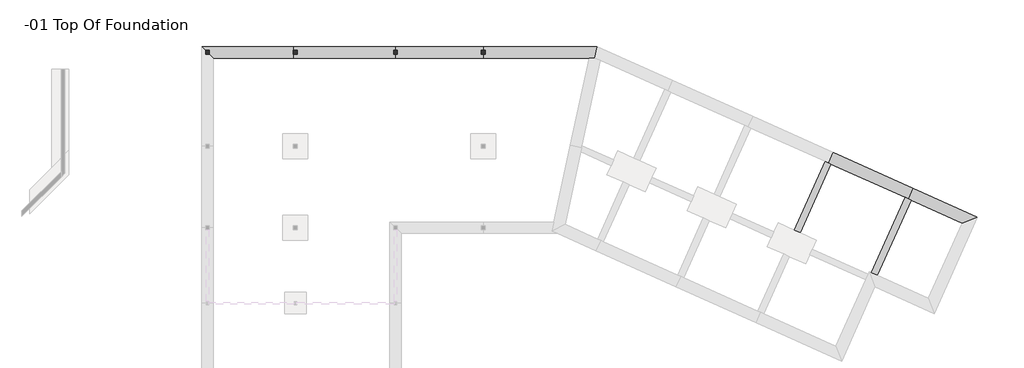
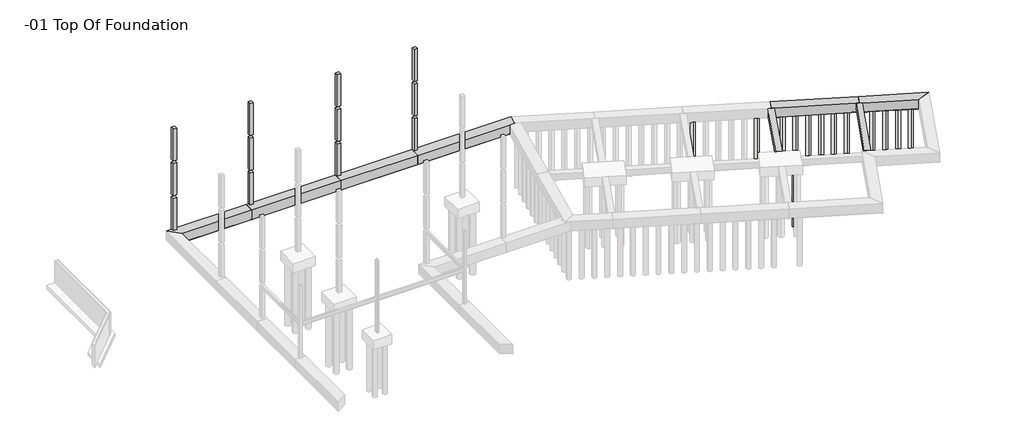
# One storey, part 6 of 6: 13 slabs, 8 beams, 4 columns.
"""IFC4 building model written with IfcOpenShell, lengths in millimetres."""

from ifc_helpers import new_model, si_unit, point, frame, frame_2d, origin, origin_with_axes, place, context, project, spatial, polyline, circle_curve, trimmed, segment, composite_curve, outline, extrude, faceted_brep, element, save
from ifc_brep_helpers import plane_surface, revolved_surface, advanced_brep

model = new_model("IFC4")

# Units and contexts
model_context = context("Model", 3, world=origin())
ifc_project = project(units=[si_unit("LENGTHUNIT", "METRE", prefix="MILLI")], contexts=[model_context])

# Site, building, storey
site = spatial("IfcSite", under=ifc_project)
building = spatial("IfcBuilding", under=site)
storey = spatial("IfcBuildingStorey", under=building, Name="-01 Top Of Foundation", Elevation=-304.8)

# Beams
placement = place(None, origin())
element("IfcBeam", 1, ObjectType="Ring Beam : 12 x 24", at=placement, inside=storey, context=model_context, shape_type="Brep", body=[
    faceted_brep([(49731.5326766, -8915.0282927, -304.8), (49499.8351156, -8810.9502439, -304.8), (49268.1375546, -8706.8721951, -304.8), (46806.691701, -14186.5195122, -304.8), (47270.0868229, -14394.6756098, -304.8), (49268.1375546, -8706.8721951, -889.0), (46806.691701, -14186.5195122, -889.0), (49291.3073107, -8717.28, -914.4), (46829.8614571, -14196.9273171, -914.4), (49708.3629205, -8904.6204878, -914.4), (47246.9170668, -14384.2678049, -914.4), (49731.5326766, -8915.0282927, -889.0), (47270.0868229, -14394.6756098, -889.0)], [[[0, 1, 2, 3, 4]], [[2, 5, 6, 3]], [[5, 7, 8, 6]], [[7, 9, 10, 8]], [[9, 11, 12, 10]], [[11, 0, 4, 12]], [[11, 9, 7, 5, 2, 1, 0]], [[4, 3, 6, 8, 10, 12]]]),
])
element("IfcBeam", 2, ObjectType="Ring Beam : 12 x 24", at=placement, inside=storey, context=model_context, shape_type="Brep", body=[
    faceted_brep([(52962.1648717, -17591.9780488, -304.8), (53425.5599937, -17800.1341463, -304.8), (56126.3853595, -11787.582439, -304.8), (55894.6877985, -11683.5043902, -304.8), (55662.9902376, -11579.4263415, -304.8), (53425.5599937, -17800.1341463, -889.0), (56126.3853595, -11787.582439, -889.0), (53402.3902376, -17789.7263415, -914.4), (56103.2156034, -11777.1746341, -914.4), (52985.3346278, -17602.3858537, -914.4), (55686.1599937, -11589.8341463, -914.4), (55662.9902376, -11579.4263415, -889.0), (52962.1648717, -17591.9780488, -889.0)], [[[0, 1, 2, 3, 4]], [[1, 5, 6, 2]], [[5, 7, 8, 6]], [[7, 9, 10, 8]], [[11, 10, 9, 12]], [[4, 11, 12, 0]], [[1, 0, 12, 9, 7, 5]], [[2, 6, 8, 10, 11, 4, 3]]]),
])
element("IfcBeam", 3, ObjectType="Ring Beam : 16 x 32", at=placement, inside=storey, context=model_context, shape_type="AdvancedBrep", body=[
    advanced_brep(
    [(56269.3687742, -10849.3931707, -304.8), (61413.0546278, -13159.9258537, -304.8), (61413.0546278, -13159.9258537, -1193.8), (56269.3687742, -10849.3931707, -1193.8), (55894.6877985, -11683.5043902, -304.8), (56126.3853595, -11787.582439, -304.8), (60204.2624327, -13619.3560976, -304.8), (61379.4770668, -13172.6878049, -1219.2), (56258.9609693, -10872.5629268, -1219.2), (60998.6018987, -13317.4484776, -1219.2), (60891.9209693, -13204.2829268, -1219.2), (60618.7151618, -13461.8334736, -1219.2), (60237.8399937, -13606.5941463, -1219.2), (55905.0956034, -11660.3346341, -1219.2), (56004.6401286, -11438.7295602, -1219.2), (56067.1539984, -11482.5266404, -1219.2), (56233.6788764, -11111.8105429, -1219.2), (56159.4164441, -11094.1680008, -1219.2), (56998.802417, -11901.0211172, -1219.2), (57165.327295, -11530.3050197, -1219.2), (57930.4508355, -12319.515594, -1219.2), (58096.9757136, -11948.7994965, -1219.2), (58862.0992541, -12738.0100708, -1219.2), (59028.6241321, -12367.2939732, -1219.2), (59793.7476727, -13156.5045476, -1219.2), (59960.2725507, -12785.78845, -1219.2), (60204.2624327, -13619.3560976, -1193.8), (55894.6877985, -11683.5043902, -1193.8), (60618.7151618, -13461.8334736, -1066.8), (60998.6018987, -13317.4484776, -1066.8), (56159.4164441, -11094.1680008, -1066.8), (56004.6401286, -11438.7295602, -1066.8), (56233.6788764, -11111.8105429, -1066.8), (56067.1539984, -11482.5266404, -1066.8), (57165.327295, -11530.3050197, -1066.8), (56998.802417, -11901.0211172, -1066.8), (58096.9757136, -11948.7994965, -1066.8), (57930.4508355, -12319.515594, -1066.8), (59028.6241321, -12367.2939732, -1066.8), (58862.0992541, -12738.0100708, -1066.8), (59960.2725507, -12785.78845, -1066.8), (59793.7476727, -13156.5045476, -1066.8), (60891.9209693, -13204.2829268, -1066.8)],
    [
        (0, 1),
        (1, 2),
        (2, 3),
        (3, 0),
        (0, 4),
        (4, 5),
        (5, 6),
        (6, 1),
        (2, 7),
        (7, 8),
        (8, 3),
        (7, 9),
        (9, 10, circle_curve(frame((60808.6585303, -13389.6409756, -1219.2), z_axis=(0.0, 0.0, 1.0), x_axis=(0.4097560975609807, 0.9121951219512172, 0.0)), 203.2)),
        (10, 11, circle_curve(frame((60808.6585303, -13389.6409756, -1219.2), z_axis=(0.0, 0.0, 1.0), x_axis=(0.4097560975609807, 0.9121951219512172, 0.0)), 203.2)),
        (11, 12),
        (12, 13),
        (13, 14),
        (14, 15, circle_curve(frame((56150.4164374, -11297.1685917, -1219.2), z_axis=(0.0, 0.0, 1.0), x_axis=(0.4097560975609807, 0.9121951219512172, 0.0)), 203.2)),
        (15, 16, circle_curve(frame((56150.4164374, -11297.1685917, -1219.2), z_axis=(0.0, 0.0, 1.0), x_axis=(0.4097560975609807, 0.9121951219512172, 0.0)), 203.2)),
        (16, 17, circle_curve(frame((56150.4164374, -11297.1685917, -1219.2), z_axis=(0.0, 0.0, 1.0), x_axis=(0.4097560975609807, 0.9121951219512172, 0.0)), 203.2)),
        (17, 8),
        (18, 19, circle_curve(frame((57082.064856, -11715.6630685, -1219.2), z_axis=(0.0, 0.0, 1.0), x_axis=(0.4097560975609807, 0.9121951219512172, 0.0)), 203.2)),
        (19, 18, circle_curve(frame((57082.064856, -11715.6630685, -1219.2), z_axis=(0.0, 0.0, 1.0), x_axis=(0.4097560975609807, 0.9121951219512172, 0.0)), 203.2)),
        (20, 21, circle_curve(frame((58013.7132746, -12134.1575452, -1219.2), z_axis=(0.0, 0.0, 1.0), x_axis=(0.4097560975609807, 0.9121951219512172, 0.0)), 203.2)),
        (21, 20, circle_curve(frame((58013.7132746, -12134.1575452, -1219.2), z_axis=(0.0, 0.0, 1.0), x_axis=(0.4097560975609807, 0.9121951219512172, 0.0)), 203.2)),
        (22, 23, circle_curve(frame((58945.3616931, -12552.652022, -1219.2), z_axis=(0.0, 0.0, 1.0), x_axis=(0.4097560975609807, 0.9121951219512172, 0.0)), 203.2)),
        (23, 22, circle_curve(frame((58945.3616931, -12552.652022, -1219.2), z_axis=(0.0, 0.0, 1.0), x_axis=(0.4097560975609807, 0.9121951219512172, 0.0)), 203.2)),
        (24, 25, circle_curve(frame((59877.0101117, -12971.1464988, -1219.2), z_axis=(0.0, 0.0, 1.0), x_axis=(0.4097560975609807, 0.9121951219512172, 0.0)), 203.2)),
        (25, 24, circle_curve(frame((59877.0101117, -12971.1464988, -1219.2), z_axis=(0.0, 0.0, 1.0), x_axis=(0.4097560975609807, 0.9121951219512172, 0.0)), 203.2)),
        (12, 26),
        (26, 27),
        (27, 13),
        (4, 27),
        (26, 6),
        (11, 28),
        (28, 29),
        (29, 9),
        (17, 30),
        (30, 31),
        (31, 14),
        (32, 33, circle_curve(frame((56150.4164374, -11297.1685917, -1066.8), z_axis=(0.0, 0.0, -1.0), x_axis=(0.4097560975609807, 0.9121951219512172, 0.0)), 203.2)),
        (33, 31, circle_curve(frame((56150.4164374, -11297.1685917, -1066.8), z_axis=(0.0, 0.0, -1.0), x_axis=(0.4097560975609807, 0.9121951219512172, 0.0)), 203.2)),
        (30, 32, circle_curve(frame((56150.4164374, -11297.1685917, -1066.8), z_axis=(0.0, 0.0, -1.0), x_axis=(0.4097560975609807, 0.9121951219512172, 0.0)), 203.2)),
        (32, 16),
        (15, 33),
        (34, 35, circle_curve(frame((57082.064856, -11715.6630685, -1066.8), z_axis=(0.0, 0.0, -1.0), x_axis=(0.4097560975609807, 0.9121951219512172, 0.0)), 203.2)),
        (35, 34, circle_curve(frame((57082.064856, -11715.6630685, -1066.8), z_axis=(0.0, 0.0, -1.0), x_axis=(0.4097560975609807, 0.9121951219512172, 0.0)), 203.2)),
        (34, 19),
        (18, 35),
        (36, 37, circle_curve(frame((58013.7132746, -12134.1575452, -1066.8), z_axis=(0.0, 0.0, -1.0), x_axis=(0.4097560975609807, 0.9121951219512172, 0.0)), 203.2)),
        (37, 36, circle_curve(frame((58013.7132746, -12134.1575452, -1066.8), z_axis=(0.0, 0.0, -1.0), x_axis=(0.4097560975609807, 0.9121951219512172, 0.0)), 203.2)),
        (36, 21),
        (20, 37),
        (38, 39, circle_curve(frame((58945.3616931, -12552.652022, -1066.8), z_axis=(0.0, 0.0, -1.0), x_axis=(0.4097560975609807, 0.9121951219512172, 0.0)), 203.2)),
        (39, 38, circle_curve(frame((58945.3616931, -12552.652022, -1066.8), z_axis=(0.0, 0.0, -1.0), x_axis=(0.4097560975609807, 0.9121951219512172, 0.0)), 203.2)),
        (38, 23),
        (22, 39),
        (40, 41, circle_curve(frame((59877.0101117, -12971.1464988, -1066.8), z_axis=(0.0, 0.0, -1.0), x_axis=(0.4097560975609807, 0.9121951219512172, 0.0)), 203.2)),
        (41, 40, circle_curve(frame((59877.0101117, -12971.1464988, -1066.8), z_axis=(0.0, 0.0, -1.0), x_axis=(0.4097560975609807, 0.9121951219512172, 0.0)), 203.2)),
        (40, 25),
        (24, 41),
        (28, 42, circle_curve(frame((60808.6585303, -13389.6409756, -1066.8), z_axis=(0.0, 0.0, -1.0), x_axis=(0.4097560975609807, 0.9121951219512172, 0.0)), 203.2)),
        (42, 29, circle_curve(frame((60808.6585303, -13389.6409756, -1066.8), z_axis=(0.0, 0.0, -1.0), x_axis=(0.4097560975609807, 0.9121951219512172, 0.0)), 203.2)),
        (42, 10),
    ],
    [
        plane_surface(frame((56512.6512132, -10958.675122, -304.8), z_axis=(0.40975609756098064, 0.9121951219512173, 0.0), x_axis=(0.9121951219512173, -0.40975609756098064, 0.0))),
        plane_surface(frame((56137.9702376, -11792.7863415, -304.8), z_axis=(0.0, 0.0, 1.0), x_axis=(0.9121951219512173, -0.40975609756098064, 0.0))),
        plane_surface(frame((56512.6512132, -10958.675122, -1193.8), z_axis=(0.2897413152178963, 0.645019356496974, -0.7071067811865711), x_axis=(0.9121951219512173, -0.40975609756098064, 0.0))),
        plane_surface(frame((56502.2434083, -10981.844878, -1219.2), z_axis=(0.0, 0.0, -1.0), x_axis=(0.9121951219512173, -0.40975609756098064, 0.0))),
        plane_surface(frame((56148.3780425, -11769.6165854, -1219.2), z_axis=(-0.2897413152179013, -0.6450193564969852, -0.7071067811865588), x_axis=(0.9121951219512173, -0.40975609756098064, 0.0))),
        plane_surface(frame((56137.9702376, -11792.7863415, -1193.8), z_axis=(-0.40975609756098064, -0.9121951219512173, 0.0), x_axis=(0.9121951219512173, -0.40975609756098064, 0.0))),
        plane_surface(frame((60204.2624327, -13619.3560976, -304.8), z_axis=(0.35527804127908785, -0.934760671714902, 0.0), x_axis=(0.934760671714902, 0.35527804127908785, 0.0))),
        plane_surface(frame((56082.0282864, -11266.4487805, -304.8), z_axis=(-0.9121951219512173, 0.40975609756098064, 0.0), x_axis=(0.40975609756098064, 0.9121951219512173, 0.0))),
        plane_surface(frame((56233.6788764, -11111.8105429, -1066.8), z_axis=(0.0, 0.0, -1.0), x_axis=(-0.9121951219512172, 0.4097560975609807, 0.0))),
        revolved_surface(polyline([(56233.6788764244, -11111.810542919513, -1066.8000000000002), (56233.6788764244, -11111.810542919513, -1219.1999999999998)]), (56150.4164374, -11297.1685917, -6096.0), (0.0, 0.0, 1.0)),
        plane_surface(frame((57165.327295, -11530.3050197, -1066.8), z_axis=(0.0, 0.0, -1.0), x_axis=(-0.9121951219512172, 0.4097560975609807, 0.0))),
        revolved_surface(polyline([(57165.32729502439, -11530.305019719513, -1066.8000000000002), (57165.32729502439, -11530.305019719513, -1219.1999999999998)]), (57082.064856, -11715.6630685, -6096.0), (0.0, 0.0, 1.0)),
        plane_surface(frame((58096.9757136, -11948.7994965, -1066.8), z_axis=(0.0, 0.0, -1.0), x_axis=(-0.9121951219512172, 0.4097560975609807, 0.0))),
        revolved_surface(polyline([(58096.97571362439, -11948.799496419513, -1066.8000000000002), (58096.97571362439, -11948.799496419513, -1219.1999999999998)]), (58013.7132746, -12134.1575452, -6096.0), (0.0, 0.0, 1.0)),
        plane_surface(frame((59028.6241321, -12367.2939732, -1066.8), z_axis=(0.0, 0.0, -1.0), x_axis=(-0.9121951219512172, 0.4097560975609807, 0.0))),
        revolved_surface(polyline([(59028.624132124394, -12367.293973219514, -1066.8000000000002), (59028.624132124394, -12367.293973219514, -1219.1999999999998)]), (58945.3616931, -12552.652022, -6096.0), (0.0, 0.0, 1.0)),
        plane_surface(frame((59960.2725507, -12785.78845, -1066.8), z_axis=(0.0, 0.0, -1.0), x_axis=(-0.9121951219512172, 0.4097560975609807, 0.0))),
        revolved_surface(polyline([(59960.272550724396, -12785.788450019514, -1066.8000000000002), (59960.272550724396, -12785.788450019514, -1219.1999999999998)]), (59877.0101117, -12971.1464988, -6096.0), (0.0, 0.0, 1.0)),
        plane_surface(frame((60891.9209693, -13204.2829268, -1066.8), z_axis=(0.0, 0.0, -1.0), x_axis=(-0.9121951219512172, 0.4097560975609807, 0.0))),
        revolved_surface(polyline([(60891.9209693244, -13204.282926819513, -1066.8000000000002), (60891.9209693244, -13204.282926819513, -1219.1999999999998)]), (60808.6585303, -13389.6409756, -6096.0), (0.0, 0.0, 1.0)),
    ],
    [
        (0, [[1, 2, 3, 4]]),
        (1, [[-1, 5, 6, 7, 8]]),
        (2, [[-3, 9, 10, 11]]),
        (3, [[-10, 12, 13, 14, 15, 16, 17, 18, 19, 20, 21], [22, 23], [24, 25], [26, 27], [28, 29]]),
        (4, [[-16, 30, 31, 32]]),
        (5, [[-7, -6, 33, -31, 34]]),
        (6, [[-34, -30, -15, 35, 36, 37, -12, -9, -2, -8]]),
        (7, [[-5, -4, -11, -21, 38, 39, 40, -17, -32, -33]]),
        (8, [[41, 42, -39, 43]]),
        (9, [[-41, 44, -19, 45]]),
        (9, [[-43, -38, -20, -44]]),
        (10, [[46, 47]]),
        (11, [[-46, 48, -22, 49]]),
        (11, [[-47, -49, -23, -48]]),
        (12, [[50, 51]]),
        (13, [[-50, 52, -24, 53]]),
        (13, [[-51, -53, -25, -52]]),
        (14, [[54, 55]]),
        (15, [[-54, 56, -26, 57]]),
        (15, [[-55, -57, -27, -56]]),
        (16, [[58, 59]]),
        (17, [[-58, 60, -28, 61]]),
        (17, [[-59, -61, -29, -60]]),
        (18, [[62, 63, -36]]),
        (19, [[-63, 64, -13, -37]]),
        (19, [[-62, -35, -14, -64]]),
        (9, [[-42, -45, -18, -40]]),
    ],
),
])
element("IfcBeam", 4, ObjectType="Ring Beam : 16 x 32", at=placement, inside=storey, context=model_context, shape_type="AdvancedBrep", body=[
    advanced_brep(
    [(49874.5160912, -7976.8390244, -304.8), (56269.3687742, -10849.3931707, -304.8), (56269.3687742, -10849.3931707, -1193.8), (49874.5160912, -7976.8390244, -1193.8), (49499.8351156, -8810.9502439, -304.8), (49731.5326766, -8915.0282927, -304.8), (55662.9902376, -11579.4263415, -304.8), (55894.6877985, -11683.5043902, -304.8), (56258.9609693, -10872.5629268, -1219.2), (49864.1082864, -8000.0087805, -1219.2), (56159.4164441, -11094.1680008, -1219.2), (56004.6401286, -11438.7295602, -1219.2), (55905.0956034, -11660.3346341, -1219.2), (49510.2429205, -8787.7804878, -1219.2), (49608.1385559, -8569.8461566, -1219.2), (49766.2126509, -8217.9431117, -1219.2), (50477.263487, -8971.5597797, -1219.2), (50643.788365, -8600.8436821, -1219.2), (51408.9119056, -9390.0542565, -1219.2), (51575.4367836, -9019.3381589, -1219.2), (52340.5603241, -9808.5487333, -1219.2), (52507.0852022, -9437.8326357, -1219.2), (53272.2087427, -10227.0432101, -1219.2), (53438.7336207, -9856.3271125, -1219.2), (54203.8571613, -10645.5376869, -1219.2), (54370.3820393, -10274.8215893, -1219.2), (55135.5055798, -11064.0321637, -1219.2), (55302.0304579, -10693.3160661, -1219.2), (55894.6877985, -11683.5043902, -1193.8), (49499.8351156, -8810.9502439, -1193.8), (56004.6401286, -11438.7295602, -1066.8), (56159.4164441, -11094.1680008, -1066.8), (49766.2126509, -8217.9431117, -1066.8), (49608.1385559, -8569.8461566, -1066.8), (50643.788365, -8600.8436821, -1066.8), (50477.263487, -8971.5597797, -1066.8), (51575.4367836, -9019.3381589, -1066.8), (51408.9119056, -9390.0542565, -1066.8), (52507.0852022, -9437.8326357, -1066.8), (52340.5603241, -9808.5487333, -1066.8), (53438.7336207, -9856.3271125, -1066.8), (53272.2087427, -10227.0432101, -1066.8), (54370.3820393, -10274.8215893, -1066.8), (54203.8571613, -10645.5376869, -1066.8), (55302.0304579, -10693.3160661, -1066.8), (55135.5055798, -11064.0321637, -1066.8)],
    [
        (0, 1),
        (1, 2),
        (2, 3),
        (3, 0),
        (0, 4),
        (4, 5),
        (5, 6),
        (6, 7),
        (7, 1),
        (2, 8),
        (8, 9),
        (9, 3),
        (8, 10),
        (10, 11, circle_curve(frame((56150.4164374, -11297.1685917, -1219.2), z_axis=(0.0, 0.0, 1.0), x_axis=(0.4097560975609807, 0.9121951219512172, 0.0)), 203.2)),
        (11, 12),
        (12, 13),
        (13, 14),
        (14, 15, circle_curve(frame((49628.8775074, -8367.7072541, -1219.2), z_axis=(0.0, 0.0, 1.0), x_axis=(0.4097560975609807, 0.9121951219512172, 0.0)), 203.2)),
        (15, 9),
        (16, 17, circle_curve(frame((50560.525926, -8786.2017309, -1219.2), z_axis=(0.0, 0.0, 1.0), x_axis=(0.4097560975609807, 0.9121951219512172, 0.0)), 203.2)),
        (17, 16, circle_curve(frame((50560.525926, -8786.2017309, -1219.2), z_axis=(0.0, 0.0, 1.0), x_axis=(0.4097560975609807, 0.9121951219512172, 0.0)), 203.2)),
        (18, 19, circle_curve(frame((51492.1743446, -9204.6962077, -1219.2), z_axis=(0.0, 0.0, 1.0), x_axis=(0.4097560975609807, 0.9121951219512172, 0.0)), 203.2)),
        (19, 18, circle_curve(frame((51492.1743446, -9204.6962077, -1219.2), z_axis=(0.0, 0.0, 1.0), x_axis=(0.4097560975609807, 0.9121951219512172, 0.0)), 203.2)),
        (20, 21, circle_curve(frame((52423.8227631, -9623.1906845, -1219.2), z_axis=(0.0, 0.0, 1.0), x_axis=(0.4097560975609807, 0.9121951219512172, 0.0)), 203.2)),
        (21, 20, circle_curve(frame((52423.8227631, -9623.1906845, -1219.2), z_axis=(0.0, 0.0, 1.0), x_axis=(0.4097560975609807, 0.9121951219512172, 0.0)), 203.2)),
        (22, 23, circle_curve(frame((53355.4711817, -10041.6851613, -1219.2), z_axis=(0.0, 0.0, 1.0), x_axis=(0.4097560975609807, 0.9121951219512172, 0.0)), 203.2)),
        (23, 22, circle_curve(frame((53355.4711817, -10041.6851613, -1219.2), z_axis=(0.0, 0.0, 1.0), x_axis=(0.4097560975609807, 0.9121951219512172, 0.0)), 203.2)),
        (24, 25, circle_curve(frame((54287.1196003, -10460.1796381, -1219.2), z_axis=(0.0, 0.0, 1.0), x_axis=(0.4097560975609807, 0.9121951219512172, 0.0)), 203.2)),
        (25, 24, circle_curve(frame((54287.1196003, -10460.1796381, -1219.2), z_axis=(0.0, 0.0, 1.0), x_axis=(0.4097560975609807, 0.9121951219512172, 0.0)), 203.2)),
        (26, 27, circle_curve(frame((55218.7680188, -10878.6741149, -1219.2), z_axis=(0.0, 0.0, 1.0), x_axis=(0.4097560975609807, 0.9121951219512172, 0.0)), 203.2)),
        (27, 26, circle_curve(frame((55218.7680188, -10878.6741149, -1219.2), z_axis=(0.0, 0.0, 1.0), x_axis=(0.4097560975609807, 0.9121951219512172, 0.0)), 203.2)),
        (12, 28),
        (28, 29),
        (29, 13),
        (4, 29),
        (28, 7),
        (11, 30),
        (30, 31),
        (31, 10),
        (15, 32),
        (32, 33),
        (33, 14),
        (32, 33, circle_curve(frame((49628.8775074, -8367.7072541, -1066.8), z_axis=(0.0, 0.0, -1.0), x_axis=(0.4097560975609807, 0.9121951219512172, 0.0)), 203.2)),
        (34, 35, circle_curve(frame((50560.525926, -8786.2017309, -1066.8), z_axis=(0.0, 0.0, -1.0), x_axis=(0.4097560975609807, 0.9121951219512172, 0.0)), 203.2)),
        (35, 34, circle_curve(frame((50560.525926, -8786.2017309, -1066.8), z_axis=(0.0, 0.0, -1.0), x_axis=(0.4097560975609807, 0.9121951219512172, 0.0)), 203.2)),
        (34, 17),
        (16, 35),
        (36, 37, circle_curve(frame((51492.1743446, -9204.6962077, -1066.8), z_axis=(0.0, 0.0, -1.0), x_axis=(0.4097560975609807, 0.9121951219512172, 0.0)), 203.2)),
        (37, 36, circle_curve(frame((51492.1743446, -9204.6962077, -1066.8), z_axis=(0.0, 0.0, -1.0), x_axis=(0.4097560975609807, 0.9121951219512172, 0.0)), 203.2)),
        (36, 19),
        (18, 37),
        (38, 39, circle_curve(frame((52423.8227631, -9623.1906845, -1066.8), z_axis=(0.0, 0.0, -1.0), x_axis=(0.4097560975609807, 0.9121951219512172, 0.0)), 203.2)),
        (39, 38, circle_curve(frame((52423.8227631, -9623.1906845, -1066.8), z_axis=(0.0, 0.0, -1.0), x_axis=(0.4097560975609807, 0.9121951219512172, 0.0)), 203.2)),
        (38, 21),
        (20, 39),
        (40, 41, circle_curve(frame((53355.4711817, -10041.6851613, -1066.8), z_axis=(0.0, 0.0, -1.0), x_axis=(0.4097560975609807, 0.9121951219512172, 0.0)), 203.2)),
        (41, 40, circle_curve(frame((53355.4711817, -10041.6851613, -1066.8), z_axis=(0.0, 0.0, -1.0), x_axis=(0.4097560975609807, 0.9121951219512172, 0.0)), 203.2)),
        (40, 23),
        (22, 41),
        (42, 43, circle_curve(frame((54287.1196003, -10460.1796381, -1066.8), z_axis=(0.0, 0.0, -1.0), x_axis=(0.4097560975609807, 0.9121951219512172, 0.0)), 203.2)),
        (43, 42, circle_curve(frame((54287.1196003, -10460.1796381, -1066.8), z_axis=(0.0, 0.0, -1.0), x_axis=(0.4097560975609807, 0.9121951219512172, 0.0)), 203.2)),
        (42, 25),
        (24, 43),
        (44, 45, circle_curve(frame((55218.7680188, -10878.6741149, -1066.8), z_axis=(0.0, 0.0, -1.0), x_axis=(0.4097560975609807, 0.9121951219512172, 0.0)), 203.2)),
        (45, 44, circle_curve(frame((55218.7680188, -10878.6741149, -1066.8), z_axis=(0.0, 0.0, -1.0), x_axis=(0.4097560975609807, 0.9121951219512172, 0.0)), 203.2)),
        (44, 27),
        (26, 45),
        (30, 31, circle_curve(frame((56150.4164374, -11297.1685917, -1066.8), z_axis=(0.0, 0.0, -1.0), x_axis=(0.4097560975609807, 0.9121951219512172, 0.0)), 203.2)),
    ],
    [
        plane_surface(frame((50117.7985303, -8086.1209756, -304.8), z_axis=(0.40975609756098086, 0.9121951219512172, 0.0), x_axis=(0.9121951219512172, -0.40975609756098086, 0.0))),
        plane_surface(frame((49743.1175546, -8920.2321951, -304.8), z_axis=(0.0, 0.0, 1.0000000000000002), x_axis=(0.9121951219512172, -0.40975609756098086, 0.0))),
        plane_surface(frame((50117.7985303, -8086.1209756, -1193.8), z_axis=(0.2897413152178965, 0.645019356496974, -0.7071067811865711), x_axis=(0.9121951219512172, -0.40975609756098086, 0.0))),
        plane_surface(frame((50107.3907254, -8109.2907317, -1219.2), z_axis=(0.0, 0.0, -1.0000000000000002), x_axis=(0.9121951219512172, -0.40975609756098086, 0.0))),
        plane_surface(frame((49753.5253595, -8897.062439, -1219.2), z_axis=(-0.2897413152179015, -0.645019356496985, -0.7071067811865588), x_axis=(0.9121951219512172, -0.40975609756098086, 0.0))),
        plane_surface(frame((49743.1175546, -8920.2321951, -1193.8), z_axis=(-0.40975609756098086, -0.9121951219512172, 0.0), x_axis=(0.9121951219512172, -0.40975609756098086, 0.0))),
        plane_surface(frame((56082.0282864, -11266.4487805, -304.8), z_axis=(0.9121951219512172, -0.40975609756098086, 0.0), x_axis=(0.40975609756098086, 0.9121951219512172, 0.0))),
        plane_surface(frame((49687.1756034, -8393.8946341, -304.8), z_axis=(-0.9121951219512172, 0.40975609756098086, 0.0), x_axis=(0.40975609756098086, 0.9121951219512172, 0.0))),
        plane_surface(frame((49712.1399465, -8182.3492054, -1066.8), z_axis=(0.0, 0.0, -1.0), x_axis=(-0.9121951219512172, 0.4097560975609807, 0.0))),
        revolved_surface(polyline([(49712.139946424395, -8182.349205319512, -1066.8000000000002), (49712.139946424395, -8182.349205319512, -1219.1999999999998)]), (49628.8775074, -8367.7072541, -6096.0), (0.0, 0.0, 1.0)),
        plane_surface(frame((50643.788365, -8600.8436821, -1066.8), z_axis=(0.0, 0.0, -1.0), x_axis=(-0.9121951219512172, 0.4097560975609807, 0.0))),
        revolved_surface(polyline([(50643.7883650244, -8600.843682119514, -1066.8000000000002), (50643.7883650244, -8600.843682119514, -1219.1999999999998)]), (50560.525926, -8786.2017309, -6096.0), (0.0, 0.0, 1.0)),
        plane_surface(frame((51575.4367836, -9019.3381589, -1066.8), z_axis=(0.0, 0.0, -1.0), x_axis=(-0.9121951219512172, 0.4097560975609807, 0.0))),
        revolved_surface(polyline([(51575.43678362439, -9019.338158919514, -1066.8000000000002), (51575.43678362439, -9019.338158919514, -1219.1999999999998)]), (51492.1743446, -9204.6962077, -6096.0), (0.0, 0.0, 1.0)),
        plane_surface(frame((52507.0852022, -9437.8326357, -1066.8), z_axis=(0.0, 0.0, -1.0), x_axis=(-0.9121951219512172, 0.4097560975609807, 0.0))),
        revolved_surface(polyline([(52507.08520212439, -9437.832635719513, -1066.8000000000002), (52507.08520212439, -9437.832635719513, -1219.1999999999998)]), (52423.8227631, -9623.1906845, -6096.0), (0.0, 0.0, 1.0)),
        plane_surface(frame((53438.7336207, -9856.3271125, -1066.8), z_axis=(0.0, 0.0, -1.0), x_axis=(-0.9121951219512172, 0.4097560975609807, 0.0))),
        revolved_surface(polyline([(53438.73362072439, -9856.327112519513, -1066.8000000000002), (53438.73362072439, -9856.327112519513, -1219.1999999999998)]), (53355.4711817, -10041.6851613, -6096.0), (0.0, 0.0, 1.0)),
        plane_surface(frame((54370.3820393, -10274.8215893, -1066.8), z_axis=(0.0, 0.0, -1.0), x_axis=(-0.9121951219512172, 0.4097560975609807, 0.0))),
        revolved_surface(polyline([(54370.382039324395, -10274.821589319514, -1066.8000000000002), (54370.382039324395, -10274.821589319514, -1219.1999999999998)]), (54287.1196003, -10460.1796381, -6096.0), (0.0, 0.0, 1.0)),
        plane_surface(frame((55302.0304579, -10693.3160661, -1066.8), z_axis=(0.0, 0.0, -1.0), x_axis=(-0.9121951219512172, 0.4097560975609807, 0.0))),
        revolved_surface(polyline([(55302.030457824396, -10693.316066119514, -1066.8000000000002), (55302.030457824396, -10693.316066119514, -1219.1999999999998)]), (55218.7680188, -10878.6741149, -6096.0), (0.0, 0.0, 1.0)),
        plane_surface(frame((56233.6788764, -11111.8105429, -1066.8), z_axis=(0.0, 0.0, -1.0), x_axis=(-0.9121951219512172, 0.4097560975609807, 0.0))),
        revolved_surface(polyline([(56233.6788764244, -11111.810542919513, -1066.8000000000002), (56233.6788764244, -11111.810542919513, -1219.1999999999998)]), (56150.4164374, -11297.1685917, -6096.0), (0.0, 0.0, 1.0)),
    ],
    [
        (0, [[1, 2, 3, 4]]),
        (1, [[-1, 5, 6, 7, 8, 9]]),
        (2, [[-3, 10, 11, 12]]),
        (3, [[-11, 13, 14, 15, 16, 17, 18, 19], [20, 21], [22, 23], [24, 25], [26, 27], [28, 29], [30, 31]]),
        (4, [[-16, 32, 33, 34]]),
        (5, [[-8, -7, -6, 35, -33, 36]]),
        (6, [[-36, -32, -15, 37, 38, 39, -13, -10, -2, -9]]),
        (7, [[-5, -4, -12, -19, 40, 41, 42, -17, -34, -35]]),
        (8, [[43, -41]]),
        (9, [[-43, -40, -18, -42]]),
        (10, [[44, 45]]),
        (11, [[-44, 46, -20, 47]]),
        (11, [[-45, -47, -21, -46]]),
        (12, [[48, 49]]),
        (13, [[-48, 50, -22, 51]]),
        (13, [[-49, -51, -23, -50]]),
        (14, [[52, 53]]),
        (15, [[-52, 54, -24, 55]]),
        (15, [[-53, -55, -25, -54]]),
        (16, [[56, 57]]),
        (17, [[-56, 58, -26, 59]]),
        (17, [[-57, -59, -27, -58]]),
        (18, [[60, 61]]),
        (19, [[-60, 62, -28, 63]]),
        (19, [[-61, -63, -29, -62]]),
        (20, [[64, 65]]),
        (21, [[-64, 66, -30, 67]]),
        (21, [[-65, -67, -31, -66]]),
        (22, [[68, -38]]),
        (23, [[-68, -37, -14, -39]]),
    ],
),
])
element("IfcBeam", 5, ObjectType="Ring Beam : 16 x 32", at=placement, inside=storey, context=model_context, shape_type="AdvancedBrep", body=[
    advanced_brep(
    [(22009.1, 457.2, -304.8), (31098.7387393, 457.2, -304.8), (31098.7387393, 457.2, -1193.8), (22009.1, 457.2, -1193.8), (22009.1, -457.2, -304.8), (30435.2167543, -457.2, -304.8), (30902.7958822, -457.2, -304.8), (31093.2958822, 431.8, -1219.2), (22009.1, 431.8, -1219.2), (31043.3436216, 198.6894505, -1219.2), (30797.5673107, 0.0, -1219.2), (30958.1909999, -198.6894505, -1219.2), (30908.2387393, -431.8, -1219.2), (30466.6362297, -431.8, -1219.2), (22009.1, -431.8, -1219.2), (30902.7958822, -457.2, -1193.8), (30435.2167543, -457.2, -1193.8), (22009.1, -457.2, -1193.8), (30958.1909999, -198.6894505, -1066.8), (31043.3436216, 198.6894505, -1066.8), (30797.5673107, 0.0, -1066.8)],
    [
        (0, 1),
        (1, 2),
        (2, 3),
        (3, 0),
        (0, 4),
        (4, 5),
        (5, 6),
        (6, 1),
        (2, 7),
        (7, 8),
        (8, 3),
        (7, 9),
        (9, 10, circle_curve(frame((31000.7673107, 0.0, -1219.2), z_axis=(0.0, 0.0, 1.0), x_axis=(1.0, 0.0, 0.0)), 203.2)),
        (10, 11, circle_curve(frame((31000.7673107, 0.0, -1219.2), z_axis=(0.0, 0.0, 1.0), x_axis=(1.0, 0.0, 0.0)), 203.2)),
        (11, 12),
        (12, 13),
        (13, 14),
        (14, 8),
        (12, 15),
        (15, 16),
        (16, 17),
        (17, 14),
        (4, 17),
        (15, 6),
        (11, 18),
        (18, 19),
        (19, 9),
        (20, 19, circle_curve(frame((31000.7673107, 0.0, -1066.8), z_axis=(0.0, 0.0, -1.0), x_axis=(1.0, 0.0, 0.0)), 203.2)),
        (18, 20, circle_curve(frame((31000.7673107, 0.0, -1066.8), z_axis=(0.0, 0.0, -1.0), x_axis=(1.0, 0.0, 0.0)), 203.2)),
        (10, 20),
    ],
    [
        plane_surface(frame((22021.8000006, 457.2, -749.3), z_axis=(0.0, 1.0, 0.0), x_axis=(0.0, 0.0, -1.0))),
        plane_surface(frame((22021.8000006, 0.0, -304.8), z_axis=(0.0, 0.0, 1.0), x_axis=(0.0, 1.0, 0.0))),
        plane_surface(frame((22021.8000006, 444.5, -1206.5), z_axis=(0.0, 0.707106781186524, -0.7071067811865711), x_axis=(0.0, -0.7071067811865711, -0.707106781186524))),
        plane_surface(frame((22021.8000006, 0.0, -1219.2), z_axis=(0.0, 0.0, -1.0), x_axis=(0.0, -1.0, 0.0))),
        plane_surface(frame((22021.8000006, -444.5, -1206.5), z_axis=(0.0, -0.7071067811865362, -0.7071067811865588), x_axis=(0.0, -0.7071067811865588, 0.7071067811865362))),
        plane_surface(frame((22021.8000006, -457.2, -749.3), z_axis=(0.0, -1.0, 0.0), x_axis=(0.0, 0.0, 1.0))),
        plane_surface(frame((30902.7958822, -457.2, -304.8), z_axis=(0.977802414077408, -0.20952908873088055, 0.0), x_axis=(0.20952908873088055, 0.977802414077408, 0.0))),
        plane_surface(frame((22009.1, 0.0, -304.8), z_axis=(-1.0, 0.0, 0.0), x_axis=(0.0, -1.0, 0.0))),
        plane_surface(frame((31203.9673107, 0.0, -1066.8), z_axis=(0.0, 0.0, -1.0), x_axis=(0.0, 1.0, 0.0))),
        revolved_surface(polyline([(31203.9673107, 0.0, -1066.8000000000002), (31203.9673107, 0.0, -1219.1999999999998)]), (31000.7673107, 0.0, -6096.0), (0.0, 0.0, 1.0)),
    ],
    [
        (0, [[1, 2, 3, 4]]),
        (1, [[-1, 5, 6, 7, 8]]),
        (2, [[-3, 9, 10, 11]]),
        (3, [[-10, 12, 13, 14, 15, 16, 17, 18]]),
        (4, [[-17, -16, 19, 20, 21, 22]]),
        (5, [[-7, -6, 23, -21, -20, 24]]),
        (6, [[-24, -19, -15, 25, 26, 27, -12, -9, -2, -8]]),
        (7, [[-5, -4, -11, -18, -22, -23]]),
        (8, [[28, -26, 29]]),
        (9, [[-29, -25, -14, 30]]),
        (9, [[-28, -30, -13, -27]]),
    ],
),
])
element("IfcBeam", 6, ObjectType="Ring Beam : 16 x 32", at=placement, inside=storey, context=model_context, shape_type="Brep", body=[
    faceted_brep([(6858.0, 457.2, -304.8), (-457.2, 457.2, -304.8), (457.2, -457.2, -304.8), (6858.0, -457.2, -304.8), (457.2, -457.2, -1193.8), (6858.0, -457.2, -1193.8), (431.8, -431.8, -1219.2), (6858.0, -431.8, -1219.2), (-431.8, 431.8, -1219.2), (6858.0, 431.8, -1219.2), (-457.2, 457.2, -1193.8), (6858.0, 457.2, -1193.8)], [[[0, 1, 2, 3]], [[3, 2, 4, 5]], [[5, 4, 6, 7]], [[7, 6, 8, 9]], [[9, 8, 10, 11]], [[1, 0, 11, 10]], [[1, 10, 8, 6, 4, 2]], [[0, 3, 5, 7, 9, 11]]]),
])
element("IfcBeam", 7, ObjectType="Ring Beam : 16 x 32", at=placement, inside=storey, context=model_context, shape_type="SweptSolid", body=[
    extrude(outline(polyline([(457.2, -304.8), (457.2, -1193.8), (431.8, -1219.2), (-431.8, -1219.2), (-457.2, -1193.8), (-457.2, -304.8), (457.2, -304.8)])), frame((14998.7, 0.0, 0.0), z_axis=(1.0, 0.0, 0.0), x_axis=(0.0, 1.0, 0.0)), (0.0, 0.0, 1.0), 7010.4),
])
element("IfcBeam", 8, ObjectType="Ring Beam : 16 x 32", at=placement, inside=storey, context=model_context, shape_type="SweptSolid", body=[
    extrude(outline(polyline([(457.2, -304.8), (457.2, -1193.8), (431.8, -1219.2), (-431.8, -1219.2), (-457.2, -1193.8), (-457.2, -304.8), (457.2, -304.8)])), frame((6858.0, 0.0, 0.0), z_axis=(1.0, 0.0, 0.0), x_axis=(0.0, 1.0, 0.0)), (0.0, 0.0, 1.0), 8140.7),
])

# Columns
element("IfcColumn", 9, ObjectType="Concrete-Rectangular-Column : 12 x 12", at=placement, inside=storey, context=model_context, shape_type="SweptSolid", body=[
    extrude(outline(polyline([(152.4, 152.4), (152.4, -152.4), (-152.4, -152.4), (-152.4, 152.4), (152.4, 152.4)])), frame((0.0, 0.0, 6705.6), z_axis=(0.0, 0.0, 1.0), x_axis=(1.0, 0.0, 0.0)), (0.0, 0.0, 1.0), 3098.8),
    extrude(outline(polyline([(152.4, 152.4), (152.4, -152.4), (-152.4, -152.4), (-152.4, 152.4), (152.4, 152.4)])), origin_with_axes(), (0.0, 0.0, 1.0), 3098.8),
    extrude(outline(polyline([(152.4, 152.4), (152.4, -152.4), (-152.4, -152.4), (-152.4, 152.4), (152.4, 152.4)])), frame((0.0, 0.0, 3352.8), z_axis=(0.0, 0.0, 1.0), x_axis=(1.0, 0.0, 0.0)), (0.0, 0.0, 1.0), 3098.8),
])
element("IfcColumn", 10, ObjectType="Concrete-Rectangular-Column : 12 x 12", at=placement, inside=storey, context=model_context, shape_type="SweptSolid", body=[
    extrude(outline(polyline([(7162.8, 152.4), (7162.8, -152.4), (6858.0, -152.4), (6858.0, 152.4), (7162.8, 152.4)])), frame((0.0, 0.0, 6705.6), z_axis=(0.0, 0.0, 1.0), x_axis=(1.0, 0.0, 0.0)), (0.0, 0.0, 1.0), 3098.8),
    extrude(outline(polyline([(7162.8, 152.4), (7162.8, -152.4), (6858.0, -152.4), (6858.0, 152.4), (7162.8, 152.4)])), origin_with_axes(), (0.0, 0.0, 1.0), 3098.8),
    extrude(outline(polyline([(7162.8, 152.4), (7162.8, -152.4), (6858.0, -152.4), (6858.0, 152.4), (7162.8, 152.4)])), frame((0.0, 0.0, 3352.8), z_axis=(0.0, 0.0, 1.0), x_axis=(1.0, 0.0, 0.0)), (0.0, 0.0, 1.0), 3098.8),
])
element("IfcColumn", 11, ObjectType="Concrete-Rectangular-Column : 12 x 12", at=placement, inside=storey, context=model_context, shape_type="SweptSolid", body=[
    extrude(outline(polyline([(15151.1, 152.4), (15151.1, -152.4), (14846.3, -152.4), (14846.3, 152.4), (15151.1, 152.4)])), frame((0.0, 0.0, 6705.6), z_axis=(0.0, 0.0, 1.0), x_axis=(1.0, 0.0, 0.0)), (0.0, 0.0, 1.0), 3098.8),
    extrude(outline(polyline([(15151.1, 152.4), (15151.1, -152.4), (14846.3, -152.4), (14846.3, 152.4), (15151.1, 152.4)])), origin_with_axes(), (0.0, 0.0, 1.0), 3098.8),
    extrude(outline(polyline([(15151.1, 152.4), (15151.1, -152.4), (14846.3, -152.4), (14846.3, 152.4), (15151.1, 152.4)])), frame((0.0, 0.0, 3352.8), z_axis=(0.0, 0.0, 1.0), x_axis=(1.0, 0.0, 0.0)), (0.0, 0.0, 1.0), 3098.8),
])
element("IfcColumn", 12, ObjectType="Concrete-Rectangular-Column : 12 x 12", at=placement, inside=storey, context=model_context, shape_type="SweptSolid", body=[
    extrude(outline(polyline([(22161.5, 152.4), (22161.5, -152.4), (21856.7, -152.4), (21856.7, 152.4), (22161.5, 152.4)])), frame((0.0, 0.0, 6705.6), z_axis=(0.0, 0.0, 1.0), x_axis=(1.0, 0.0, 0.0)), (0.0, 0.0, 1.0), 3098.8),
    extrude(outline(polyline([(22161.5, 152.4), (22161.5, -152.4), (21856.7, -152.4), (21856.7, 152.4), (22161.5, 152.4)])), origin_with_axes(), (0.0, 0.0, 1.0), 3098.8),
    extrude(outline(polyline([(22161.5, 152.4), (22161.5, -152.4), (21856.7, -152.4), (21856.7, 152.4), (22161.5, 152.4)])), frame((0.0, 0.0, 3352.8), z_axis=(0.0, 0.0, 1.0), x_axis=(1.0, 0.0, 0.0)), (0.0, 0.0, 1.0), 3098.8),
])

# Slabs
element("IfcSlab", 13, ObjectType="Round In Situ Concrete Pile : 16\" Diameter", at=placement, inside=storey, context=model_context, shape_type="SweptSolid", body=[
    extrude(outline(composite_curve([segment(trimmed(circle_curve(frame_2d((44038.986996, -5856.7403934)), 203.2), [point((43955.724557, -6042.0984422))], [point((44122.2494351, -5671.3823446))], False, "CARTESIAN"), True, "CONTINUOUS"), segment(trimmed(circle_curve(frame_2d((44038.986996, -5856.7403934)), 203.2), [point((44122.2494351, -5671.3823446))], [point((43955.724557, -6042.0984422))], False, "CARTESIAN"), True, "CONTINUOUS")], self_intersect=False)), frame((0.0, 0.0, -6096.0), z_axis=(0.0, 0.0, 1.0), x_axis=(1.0, 0.0, 0.0)), (0.0, 0.0, 1.0), 5029.2),
])
element("IfcSlab", 14, ObjectType="Round In Situ Concrete Pile : 16\" Diameter", at=placement, inside=storey, context=model_context, shape_type="SweptSolid", body=[
    extrude(outline(composite_curve([segment(trimmed(circle_curve(frame_2d((48697.2290889, -7949.2127773)), 203.2), [point((48613.9666498, -8134.5708261))], [point((48780.4915279, -7763.8547286))], False, "CARTESIAN"), True, "CONTINUOUS"), segment(trimmed(circle_curve(frame_2d((48697.2290889, -7949.2127773)), 203.2), [point((48780.4915279, -7763.8547286))], [point((48613.9666498, -8134.5708261))], False, "CARTESIAN"), True, "CONTINUOUS")], self_intersect=False)), frame((0.0, 0.0, -6096.0), z_axis=(0.0, 0.0, 1.0), x_axis=(1.0, 0.0, 0.0)), (0.0, 0.0, 1.0), 5029.2),
])
element("IfcSlab", 15, ObjectType="Round In Situ Concrete Pile : 16\" Diameter", at=placement, inside=storey, context=model_context, shape_type="SweptSolid", body=[
    extrude(outline(composite_curve([segment(trimmed(circle_curve(frame_2d((50560.525926, -8786.2017309)), 203.2), [point((50477.263487, -8971.5597797))], [point((50643.788365, -8600.8436821))], False, "CARTESIAN"), True, "CONTINUOUS"), segment(trimmed(circle_curve(frame_2d((50560.525926, -8786.2017309)), 203.2), [point((50643.788365, -8600.8436821))], [point((50477.263487, -8971.5597797))], False, "CARTESIAN"), True, "CONTINUOUS")], self_intersect=False)), frame((0.0, 0.0, -6096.0), z_axis=(0.0, 0.0, 1.0), x_axis=(1.0, 0.0, 0.0)), (0.0, 0.0, 1.0), 5029.2),
])
element("IfcSlab", 16, ObjectType="Round In Situ Concrete Pile : 16\" Diameter", at=placement, inside=storey, context=model_context, shape_type="SweptSolid", body=[
    extrude(outline(composite_curve([segment(trimmed(circle_curve(frame_2d((51492.1743446, -9204.6962077)), 203.2), [point((51408.9119056, -9390.0542565))], [point((51575.4367836, -9019.3381589))], False, "CARTESIAN"), True, "CONTINUOUS"), segment(trimmed(circle_curve(frame_2d((51492.1743446, -9204.6962077)), 203.2), [point((51575.4367836, -9019.3381589))], [point((51408.9119056, -9390.0542565))], False, "CARTESIAN"), True, "CONTINUOUS")], self_intersect=False)), frame((0.0, 0.0, -6096.0), z_axis=(0.0, 0.0, 1.0), x_axis=(1.0, 0.0, 0.0)), (0.0, 0.0, 1.0), 5029.2),
])
element("IfcSlab", 17, ObjectType="Round In Situ Concrete Pile : 16\" Diameter", at=placement, inside=storey, context=model_context, shape_type="SweptSolid", body=[
    extrude(outline(composite_curve([segment(trimmed(circle_curve(frame_2d((52423.8227631, -9623.1906845)), 203.2), [point((52340.5603241, -9808.5487333))], [point((52507.0852022, -9437.8326357))], False, "CARTESIAN"), True, "CONTINUOUS"), segment(trimmed(circle_curve(frame_2d((52423.8227631, -9623.1906845)), 203.2), [point((52507.0852022, -9437.8326357))], [point((52340.5603241, -9808.5487333))], False, "CARTESIAN"), True, "CONTINUOUS")], self_intersect=False)), frame((0.0, 0.0, -6096.0), z_axis=(0.0, 0.0, 1.0), x_axis=(1.0, 0.0, 0.0)), (0.0, 0.0, 1.0), 5029.2),
])
element("IfcSlab", 18, ObjectType="Round In Situ Concrete Pile : 16\" Diameter", at=placement, inside=storey, context=model_context, shape_type="SweptSolid", body=[
    extrude(outline(composite_curve([segment(trimmed(circle_curve(frame_2d((53355.4711817, -10041.6851613)), 203.2), [point((53272.2087427, -10227.0432101))], [point((53438.7336207, -9856.3271125))], False, "CARTESIAN"), True, "CONTINUOUS"), segment(trimmed(circle_curve(frame_2d((53355.4711817, -10041.6851613)), 203.2), [point((53438.7336207, -9856.3271125))], [point((53272.2087427, -10227.0432101))], False, "CARTESIAN"), True, "CONTINUOUS")], self_intersect=False)), frame((0.0, 0.0, -6096.0), z_axis=(0.0, 0.0, 1.0), x_axis=(1.0, 0.0, 0.0)), (0.0, 0.0, 1.0), 5029.2),
])
element("IfcSlab", 19, ObjectType="Round In Situ Concrete Pile : 16\" Diameter", at=placement, inside=storey, context=model_context, shape_type="SweptSolid", body=[
    extrude(outline(composite_curve([segment(trimmed(circle_curve(frame_2d((54287.1196003, -10460.1796381)), 203.2), [point((54203.8571613, -10645.5376869))], [point((54370.3820393, -10274.8215893))], False, "CARTESIAN"), True, "CONTINUOUS"), segment(trimmed(circle_curve(frame_2d((54287.1196003, -10460.1796381)), 203.2), [point((54370.3820393, -10274.8215893))], [point((54203.8571613, -10645.5376869))], False, "CARTESIAN"), True, "CONTINUOUS")], self_intersect=False)), frame((0.0, 0.0, -6096.0), z_axis=(0.0, 0.0, 1.0), x_axis=(1.0, 0.0, 0.0)), (0.0, 0.0, 1.0), 5029.2),
])
element("IfcSlab", 20, ObjectType="Round In Situ Concrete Pile : 16\" Diameter", at=placement, inside=storey, context=model_context, shape_type="SweptSolid", body=[
    extrude(outline(composite_curve([segment(trimmed(circle_curve(frame_2d((55218.7680188, -10878.6741149)), 203.2), [point((55135.5055798, -11064.0321637))], [point((55302.0304579, -10693.3160661))], False, "CARTESIAN"), True, "CONTINUOUS"), segment(trimmed(circle_curve(frame_2d((55218.7680188, -10878.6741149)), 203.2), [point((55302.0304579, -10693.3160661))], [point((55135.5055798, -11064.0321637))], False, "CARTESIAN"), True, "CONTINUOUS")], self_intersect=False)), frame((0.0, 0.0, -6096.0), z_axis=(0.0, 0.0, 1.0), x_axis=(1.0, 0.0, 0.0)), (0.0, 0.0, 1.0), 5029.2),
])
element("IfcSlab", 21, ObjectType="Round In Situ Concrete Pile : 16\" Diameter", at=placement, inside=storey, context=model_context, shape_type="SweptSolid", body=[
    extrude(outline(composite_curve([segment(trimmed(circle_curve(frame_2d((57082.064856, -11715.6630685)), 203.2), [point((56998.802417, -11901.0211172))], [point((57165.327295, -11530.3050197))], False, "CARTESIAN"), True, "CONTINUOUS"), segment(trimmed(circle_curve(frame_2d((57082.064856, -11715.6630685)), 203.2), [point((57165.327295, -11530.3050197))], [point((56998.802417, -11901.0211172))], False, "CARTESIAN"), True, "CONTINUOUS")], self_intersect=False)), frame((0.0, 0.0, -6096.0), z_axis=(0.0, 0.0, 1.0), x_axis=(1.0, 0.0, 0.0)), (0.0, 0.0, 1.0), 5029.2),
])
element("IfcSlab", 22, ObjectType="Round In Situ Concrete Pile : 16\" Diameter", at=placement, inside=storey, context=model_context, shape_type="SweptSolid", body=[
    extrude(outline(composite_curve([segment(trimmed(circle_curve(frame_2d((58013.7132746, -12134.1575452)), 203.2), [point((57930.4508355, -12319.515594))], [point((58096.9757136, -11948.7994965))], False, "CARTESIAN"), True, "CONTINUOUS"), segment(trimmed(circle_curve(frame_2d((58013.7132746, -12134.1575452)), 203.2), [point((58096.9757136, -11948.7994965))], [point((57930.4508355, -12319.515594))], False, "CARTESIAN"), True, "CONTINUOUS")], self_intersect=False)), frame((0.0, 0.0, -6096.0), z_axis=(0.0, 0.0, 1.0), x_axis=(1.0, 0.0, 0.0)), (0.0, 0.0, 1.0), 5029.2),
])
element("IfcSlab", 23, ObjectType="Round In Situ Concrete Pile : 16\" Diameter", at=placement, inside=storey, context=model_context, shape_type="SweptSolid", body=[
    extrude(outline(composite_curve([segment(trimmed(circle_curve(frame_2d((58945.3616931, -12552.652022)), 203.2), [point((58862.0992541, -12738.0100708))], [point((59028.6241321, -12367.2939732))], False, "CARTESIAN"), True, "CONTINUOUS"), segment(trimmed(circle_curve(frame_2d((58945.3616931, -12552.652022)), 203.2), [point((59028.6241321, -12367.2939732))], [point((58862.0992541, -12738.0100708))], False, "CARTESIAN"), True, "CONTINUOUS")], self_intersect=False)), frame((0.0, 0.0, -6096.0), z_axis=(0.0, 0.0, 1.0), x_axis=(1.0, 0.0, 0.0)), (0.0, 0.0, 1.0), 5029.2),
])
element("IfcSlab", 24, ObjectType="Round In Situ Concrete Pile : 16\" Diameter", at=placement, inside=storey, context=model_context, shape_type="SweptSolid", body=[
    extrude(outline(composite_curve([segment(trimmed(circle_curve(frame_2d((59877.0101117, -12971.1464988)), 203.2), [point((59793.7476727, -13156.5045476))], [point((59960.2725507, -12785.78845))], False, "CARTESIAN"), True, "CONTINUOUS"), segment(trimmed(circle_curve(frame_2d((59877.0101117, -12971.1464988)), 203.2), [point((59960.2725507, -12785.78845))], [point((59793.7476727, -13156.5045476))], False, "CARTESIAN"), True, "CONTINUOUS")], self_intersect=False)), frame((0.0, 0.0, -6096.0), z_axis=(0.0, 0.0, 1.0), x_axis=(1.0, 0.0, 0.0)), (0.0, 0.0, 1.0), 5029.2),
])
element("IfcSlab", 25, ObjectType="Round In Situ Concrete Pile : 20\" Diameter", at=placement, inside=storey, context=model_context, shape_type="SweptSolid", body=[
    extrude(outline(composite_curve([segment(trimmed(circle_curve(frame_2d((48030.3521888, -15181.7039024)), 254.0), [point((47926.27414, -15413.4014634))], [point((48134.4302376, -14950.0063415))], False, "CARTESIAN"), True, "CONTINUOUS"), segment(trimmed(circle_curve(frame_2d((48030.3521888, -15181.7039024)), 254.0), [point((48134.4302376, -14950.0063415))], [point((47926.27414, -15413.4014634))], False, "CARTESIAN"), True, "CONTINUOUS")], self_intersect=False)), frame((0.0, 0.0, -7289.8), z_axis=(0.0, 0.0, 1.0), x_axis=(1.0, 0.0, 0.0)), (0.0, 0.0, 1.0), 6096.0),
])

save(model, "model.ifc")
